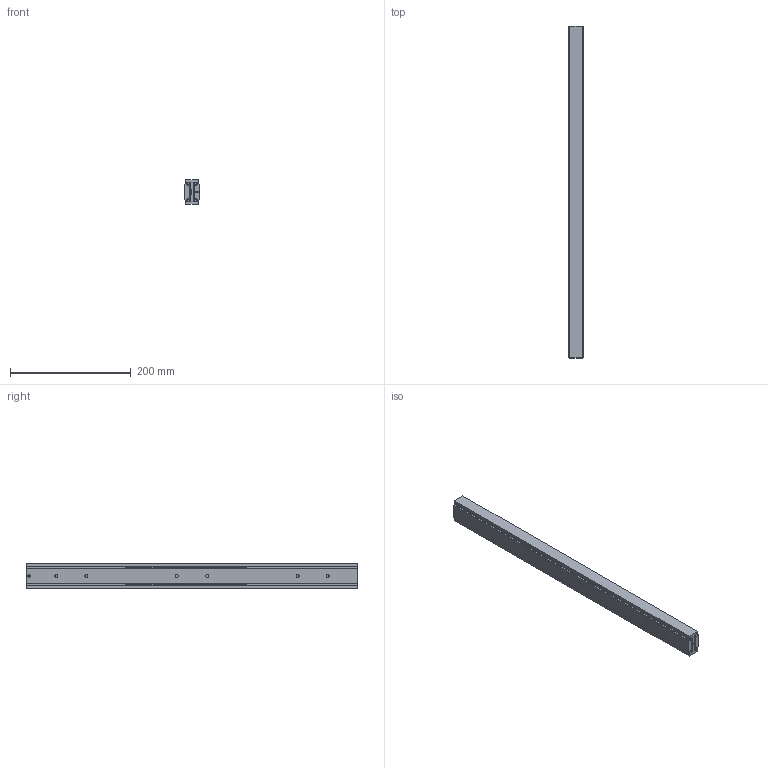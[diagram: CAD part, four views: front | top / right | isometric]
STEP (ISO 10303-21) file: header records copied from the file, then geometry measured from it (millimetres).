
FILE_DESCRIPTION(/* description */ (''),/* implementation_level */ '2;1');
FILE_NAME(/* name */ 'C:\Users\Miluxor\Desktop\Miluxor Schienen\Original Zeichnungen\Zeichnungen Schienen Komplett\MX-DTP40\MX-DTP40.055\MX-DTP40.055_eingefahren.stp',/* time_stamp */ '2020-05-11T13:39:21+02:00',/* author */ ('Miluxor'),/* organization */ (''),/* preprocessor_version */ 'ST-DEVELOPER v16.13',/* originating_system */ 'AutoCAD Mechanical',/* authorisation */ '');
FILE_SCHEMA (('AUTOMOTIVE_DESIGN { 1 0 10303 214 3 1 1 }'));
Length unit declared in the file: millimetre
Products named in the file (1): Product
Bounding box: 24 x 550 x 40 mm (x, y, z)
Volume: 412961.4 mm3; surface area: 200420 mm2
Topology: 53 solids, 53 shells, 320 faces, 810 edges, 536 vertices
Faces by surface type: plane 218, cylinder 56, sphere 32, bspline 8, torus 6
Full cylindrical faces by diameter (mm): 5 x12, 6 x32, 10 x2
Entity records: 14749 total; most frequent: CARTESIAN_POINT 7235, DIRECTION 1460, ORIENTED_EDGE 1384, EDGE_CURVE 692, VERTEX_POINT 534, LINE 526, VECTOR 526, AXIS2_PLACEMENT_3D 467
